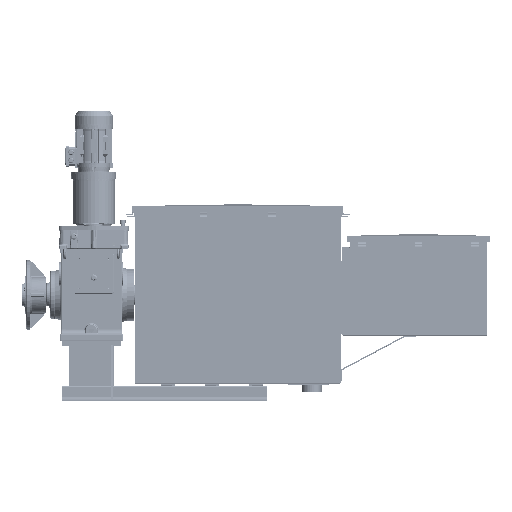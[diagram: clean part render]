
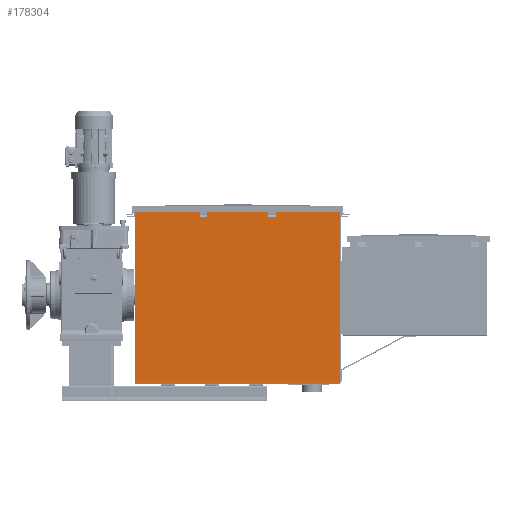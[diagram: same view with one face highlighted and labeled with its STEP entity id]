
A CAD part, top view. The second image highlights one B-rep face of the part: STEP entity #178304.
In plain terms, the highlighted planar face has unit normal (0, 0, 1).
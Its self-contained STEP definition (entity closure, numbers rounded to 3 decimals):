
#1335=PLANE('',#189055);
#10262=LINE('',#257138,#26424);
#10279=LINE('',#257183,#26441);
#10281=LINE('',#257187,#26443);
#10282=LINE('',#257189,#26444);
#10283=LINE('',#257198,#26445);
#10300=LINE('',#257243,#26462);
#10302=LINE('',#257247,#26464);
#10303=LINE('',#257249,#26465);
#10537=LINE('',#257960,#26699);
#10540=LINE('',#257966,#26702);
#10543=LINE('',#257973,#26705);
#10546=LINE('',#257977,#26708);
#10552=LINE('',#257989,#26714);
#10554=LINE('',#257993,#26716);
#10556=LINE('',#257996,#26718);
#10557=LINE('',#257999,#26719);
#10558=LINE('',#258001,#26720);
#10559=LINE('',#258002,#26721);
#10560=LINE('',#258004,#26722);
#10561=LINE('',#258005,#26723);
#26424=VECTOR('',#207639,40.);
#26441=VECTOR('',#207682,40.);
#26443=VECTOR('',#207686,40.);
#26444=VECTOR('',#207689,40.);
#26445=VECTOR('',#207698,40.);
#26462=VECTOR('',#207741,40.);
#26464=VECTOR('',#207745,40.);
#26465=VECTOR('',#207748,40.);
#26699=VECTOR('',#208468,945.);
#26702=VECTOR('',#208473,0.992);
#26705=VECTOR('',#208478,2.976);
#26708=VECTOR('',#208483,1.984);
#26714=VECTOR('',#208493,2.976);
#26716=VECTOR('',#208497,0.992);
#26718=VECTOR('',#208501,1.984);
#26719=VECTOR('',#208504,51.016);
#26720=VECTOR('',#208505,894.016);
#26721=VECTOR('',#208506,1051.);
#26722=VECTOR('',#208507,894.016);
#26723=VECTOR('',#208508,51.016);
#41690=FACE_BOUND('',#60379,.T.);
#41691=FACE_BOUND('',#60380,.T.);
#50259=FACE_OUTER_BOUND('',#60378,.T.);
#60378=EDGE_LOOP('',(#121610,#121611,#121612,#121613,#121614,#121615,#121616,
#121617,#121618,#121619,#121620,#121621));
#60379=EDGE_LOOP('',(#121622,#121623,#121624,#121625));
#60380=EDGE_LOOP('',(#121626,#121627,#121628,#121629));
#75012=VERTEX_POINT('',#257136);
#75013=VERTEX_POINT('',#257137);
#75028=VERTEX_POINT('',#257181);
#75029=VERTEX_POINT('',#257185);
#75032=VERTEX_POINT('',#257196);
#75033=VERTEX_POINT('',#257197);
#75048=VERTEX_POINT('',#257241);
#75049=VERTEX_POINT('',#257245);
#75190=VERTEX_POINT('',#257660);
#75282=VERTEX_POINT('',#257952);
#75283=VERTEX_POINT('',#257956);
#75285=VERTEX_POINT('',#257964);
#75287=VERTEX_POINT('',#257970);
#75288=VERTEX_POINT('',#257972);
#75291=VERTEX_POINT('',#257986);
#75292=VERTEX_POINT('',#257988);
#75293=VERTEX_POINT('',#257992);
#75294=VERTEX_POINT('',#257998);
#75295=VERTEX_POINT('',#258000);
#75296=VERTEX_POINT('',#258003);
#92674=EDGE_CURVE('',#75012,#75013,#10262,.T.);
#92697=EDGE_CURVE('',#75013,#75028,#10279,.T.);
#92699=EDGE_CURVE('',#75029,#75012,#10281,.T.);
#92700=EDGE_CURVE('',#75028,#75029,#10282,.T.);
#92703=EDGE_CURVE('',#75032,#75033,#10283,.T.);
#92726=EDGE_CURVE('',#75033,#75048,#10300,.T.);
#92728=EDGE_CURVE('',#75049,#75032,#10302,.T.);
#92729=EDGE_CURVE('',#75048,#75049,#10303,.T.);
#93070=EDGE_CURVE('',#75282,#75283,#10537,.T.);
#93073=EDGE_CURVE('',#75283,#75285,#10540,.T.);
#93076=EDGE_CURVE('',#75288,#75287,#10543,.T.);
#93079=EDGE_CURVE('',#75285,#75288,#10546,.T.);
#93085=EDGE_CURVE('',#75292,#75291,#10552,.T.);
#93087=EDGE_CURVE('',#75293,#75282,#10554,.T.);
#93089=EDGE_CURVE('',#75291,#75293,#10556,.T.);
#93090=EDGE_CURVE('',#75294,#75287,#10557,.T.);
#93091=EDGE_CURVE('',#75295,#75294,#10558,.T.);
#93092=EDGE_CURVE('',#75295,#75190,#10559,.T.);
#93093=EDGE_CURVE('',#75296,#75190,#10560,.T.);
#93094=EDGE_CURVE('',#75292,#75296,#10561,.T.);
#121610=ORIENTED_EDGE('',*,*,#93076,.T.);
#121611=ORIENTED_EDGE('',*,*,#93090,.F.);
#121612=ORIENTED_EDGE('',*,*,#93091,.F.);
#121613=ORIENTED_EDGE('',*,*,#93092,.T.);
#121614=ORIENTED_EDGE('',*,*,#93093,.F.);
#121615=ORIENTED_EDGE('',*,*,#93094,.F.);
#121616=ORIENTED_EDGE('',*,*,#93085,.T.);
#121617=ORIENTED_EDGE('',*,*,#93089,.T.);
#121618=ORIENTED_EDGE('',*,*,#93087,.T.);
#121619=ORIENTED_EDGE('',*,*,#93070,.T.);
#121620=ORIENTED_EDGE('',*,*,#93073,.T.);
#121621=ORIENTED_EDGE('',*,*,#93079,.T.);
#121622=ORIENTED_EDGE('',*,*,#92674,.T.);
#121623=ORIENTED_EDGE('',*,*,#92697,.T.);
#121624=ORIENTED_EDGE('',*,*,#92700,.T.);
#121625=ORIENTED_EDGE('',*,*,#92699,.T.);
#121626=ORIENTED_EDGE('',*,*,#92703,.T.);
#121627=ORIENTED_EDGE('',*,*,#92726,.T.);
#121628=ORIENTED_EDGE('',*,*,#92729,.T.);
#121629=ORIENTED_EDGE('',*,*,#92728,.T.);
#178304=ADVANCED_FACE('',(#50259,#41690,#41691),#1335,.F.);
#189055=AXIS2_PLACEMENT_3D('',#257997,#208502,#208503);
#207639=DIRECTION('',(0.,-1.,0.));
#207682=DIRECTION('',(-1.,0.,0.));
#207686=DIRECTION('',(1.,0.,0.));
#207689=DIRECTION('',(0.,1.,0.));
#207698=DIRECTION('',(0.,-1.,0.));
#207741=DIRECTION('',(-1.,0.,0.));
#207745=DIRECTION('',(1.,0.,0.));
#207748=DIRECTION('',(0.,1.,0.));
#208468=DIRECTION('',(-1.,0.,0.));
#208473=DIRECTION('',(0.,-1.,0.));
#208478=DIRECTION('',(0.,1.,0.));
#208483=DIRECTION('',(-1.,0.,0.));
#208493=DIRECTION('',(0.,-1.,0.));
#208497=DIRECTION('',(0.,1.,0.));
#208501=DIRECTION('',(-1.,0.,0.));
#208502=DIRECTION('center_axis',(0.,0.,
-1.));
#208503=DIRECTION('ref_axis',(-1.,0.,0.));
#208504=DIRECTION('',(1.,0.,0.));
#208505=DIRECTION('',(0.,1.,0.));
#208506=DIRECTION('',(1.,0.,0.));
#208507=DIRECTION('',(0.,-1.,0.));
#208508=DIRECTION('',(1.,0.,0.));
#257136=CARTESIAN_POINT('',(983.802,377.411,301.019));
#257137=CARTESIAN_POINT('',(983.802,337.411,301.019));
#257138=CARTESIAN_POINT('',(983.802,140.33,301.019));
#257181=CARTESIAN_POINT('',(943.802,337.411,301.019));
#257183=CARTESIAN_POINT('',(876.302,337.411,301.019));
#257185=CARTESIAN_POINT('',(943.802,377.411,301.019));
#257187=CARTESIAN_POINT('',(876.302,377.411,301.019));
#257189=CARTESIAN_POINT('',(943.802,140.33,301.019));
#257196=CARTESIAN_POINT('',(633.802,377.411,301.019));
#257197=CARTESIAN_POINT('',(633.802,337.411,301.019));
#257198=CARTESIAN_POINT('',(633.802,140.33,301.019));
#257241=CARTESIAN_POINT('',(593.802,337.411,301.019));
#257243=CARTESIAN_POINT('',(701.302,337.411,301.019));
#257245=CARTESIAN_POINT('',(593.802,377.411,301.019));
#257247=CARTESIAN_POINT('',(701.302,377.411,301.019));
#257249=CARTESIAN_POINT('',(593.802,140.33,301.019));
#257660=CARTESIAN_POINT('',(1314.302,-510.889,301.019));
#257952=CARTESIAN_POINT('',(1261.302,381.143,301.019));
#257956=CARTESIAN_POINT('',(316.302,381.143,301.019));
#257960=CARTESIAN_POINT('',(552.552,381.143,301.019));
#257964=CARTESIAN_POINT('',(316.302,380.151,301.019));
#257966=CARTESIAN_POINT('',(316.302,155.763,301.019));
#257970=CARTESIAN_POINT('',(314.319,383.127,301.019));
#257972=CARTESIAN_POINT('',(314.319,380.151,301.019));
#257973=CARTESIAN_POINT('',(314.319,157.251,301.019));
#257977=CARTESIAN_POINT('',(551.56,380.151,301.019));
#257986=CARTESIAN_POINT('',(1263.286,380.151,301.019));
#257988=CARTESIAN_POINT('',(1263.286,383.127,301.019));
#257989=CARTESIAN_POINT('',(1263.286,155.763,301.019));
#257992=CARTESIAN_POINT('',(1261.302,380.151,301.019));
#257993=CARTESIAN_POINT('',(1261.302,157.251,301.019));
#257996=CARTESIAN_POINT('',(1025.052,380.151,301.019));
#257997=CARTESIAN_POINT('Origin',(788.802,-68.625,301.019));
#257998=CARTESIAN_POINT('',(263.302,383.127,301.019));
#257999=CARTESIAN_POINT('',(263.302,383.127,301.019));
#258000=CARTESIAN_POINT('',(263.302,-510.889,301.019));
#258001=CARTESIAN_POINT('',(263.302,-510.889,301.019));
#258002=CARTESIAN_POINT('',(788.802,-510.889,301.019));
#258003=CARTESIAN_POINT('',(1314.302,383.127,301.019));
#258004=CARTESIAN_POINT('',(1314.302,-519.864,301.019));
#258005=CARTESIAN_POINT('',(263.302,383.127,301.019));
